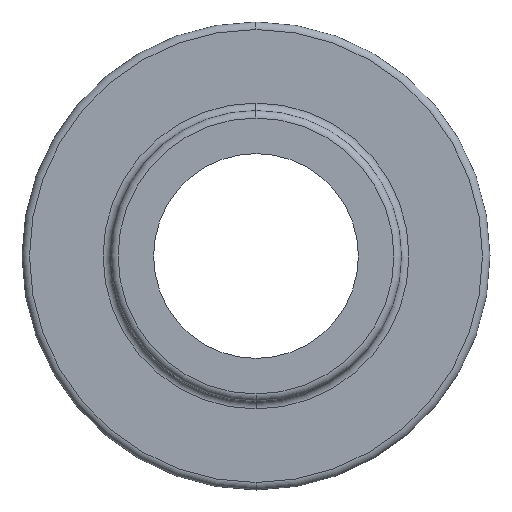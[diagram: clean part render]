
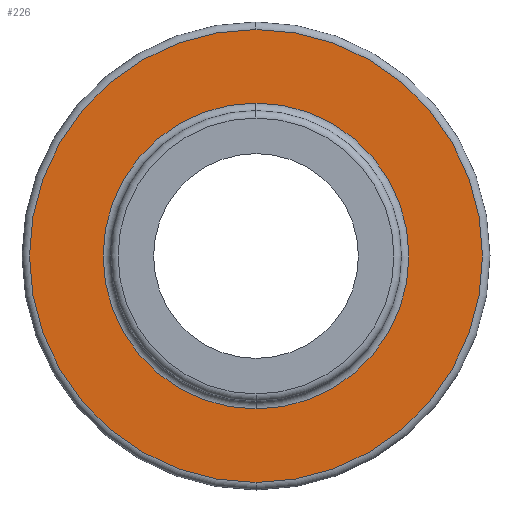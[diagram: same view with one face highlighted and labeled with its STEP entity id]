
A CAD part, left-side view. The second image highlights one B-rep face of the part: STEP entity #226.
In plain terms, the highlighted planar face has unit normal (-1, 0, 0).
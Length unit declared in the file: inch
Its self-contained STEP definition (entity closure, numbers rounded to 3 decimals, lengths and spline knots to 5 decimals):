
#1 = VERTEX_POINT ( 'NONE', #505 ) ;
#3 = AXIS2_PLACEMENT_3D ( 'NONE', #191, #421, #137 ) ;
#5 = CIRCLE ( 'NONE', #401, 0.6535 ) ;
#14 = ORIENTED_EDGE ( 'NONE', *, *, #409, .T. ) ;
#49 = ORIENTED_EDGE ( 'NONE', *, *, #396, .T. ) ;
#105 = AXIS2_PLACEMENT_3D ( 'NONE', #657, #220, #327 ) ;
#137 = DIRECTION ( 'NONE',  ( 0., 0., 1. ) ) ;
#140 = FACE_BOUND ( 'NONE', #683, .T. ) ;
#153 = CARTESIAN_POINT ( 'NONE',  ( -0.589, 0., 0.6535 ) ) ;
#167 = ORIENTED_EDGE ( 'NONE', *, *, #207, .F. ) ;
#173 = DIRECTION ( 'NONE',  ( 0., 0., -1. ) ) ;
#186 = PLANE ( 'NONE',  #3 ) ;
#191 = CARTESIAN_POINT ( 'NONE',  ( -0.589, 0.6535, 0. ) ) ;
#207 = EDGE_CURVE ( 'NONE', #1, #593, #419, .T. ) ;
#208 = CARTESIAN_POINT ( 'NONE',  ( -0.589, 0., 0. ) ) ;
#210 = DIRECTION ( 'NONE',  ( 0., 0., -1. ) ) ;
#220 = DIRECTION ( 'NONE',  ( 1., 0., 0. ) ) ;
#226 = ADVANCED_FACE ( 'NONE', ( #140, #697 ), #186, .T. ) ;
#300 = DIRECTION ( 'NONE',  ( 1., 0., 0. ) ) ;
#327 = DIRECTION ( 'NONE',  ( 0., 0., -1. ) ) ;
#332 = DIRECTION ( 'NONE',  ( 1., 0., 0. ) ) ;
#344 = AXIS2_PLACEMENT_3D ( 'NONE', #208, #300, #363 ) ;
#363 = DIRECTION ( 'NONE',  ( 0., 0., -1. ) ) ;
#388 = CARTESIAN_POINT ( 'NONE',  ( -0.589, 0., 0. ) ) ;
#396 = EDGE_CURVE ( 'NONE', #456, #678, #5, .T. ) ;
#401 = AXIS2_PLACEMENT_3D ( 'NONE', #388, #332, #210 ) ;
#409 = EDGE_CURVE ( 'NONE', #678, #456, #721, .T. ) ;
#415 = AXIS2_PLACEMENT_3D ( 'NONE', #506, #623, #173 ) ;
#419 = CIRCLE ( 'NONE', #344, 0.968 ) ;
#421 = DIRECTION ( 'NONE',  ( -1., 0., 0. ) ) ;
#422 = CARTESIAN_POINT ( 'NONE',  ( -0.589, 0., -0.6535 ) ) ;
#456 = VERTEX_POINT ( 'NONE', #153 ) ;
#505 = CARTESIAN_POINT ( 'NONE',  ( -0.589, 0., -0.968 ) ) ;
#506 = CARTESIAN_POINT ( 'NONE',  ( -0.589, 0., 0. ) ) ;
#523 = CARTESIAN_POINT ( 'NONE',  ( -0.589, 0., 0.968 ) ) ;
#526 = EDGE_CURVE ( 'NONE', #593, #1, #728, .T. ) ;
#593 = VERTEX_POINT ( 'NONE', #523 ) ;
#623 = DIRECTION ( 'NONE',  ( 1., 0., 0. ) ) ;
#624 = EDGE_LOOP ( 'NONE', ( #167, #708 ) ) ;
#657 = CARTESIAN_POINT ( 'NONE',  ( -0.589, 0., 0. ) ) ;
#678 = VERTEX_POINT ( 'NONE', #422 ) ;
#683 = EDGE_LOOP ( 'NONE', ( #14, #49 ) ) ;
#697 = FACE_OUTER_BOUND ( 'NONE', #624, .T. ) ;
#708 = ORIENTED_EDGE ( 'NONE', *, *, #526, .F. ) ;
#721 = CIRCLE ( 'NONE', #105, 0.6535 ) ;
#728 = CIRCLE ( 'NONE', #415, 0.968 ) ;
